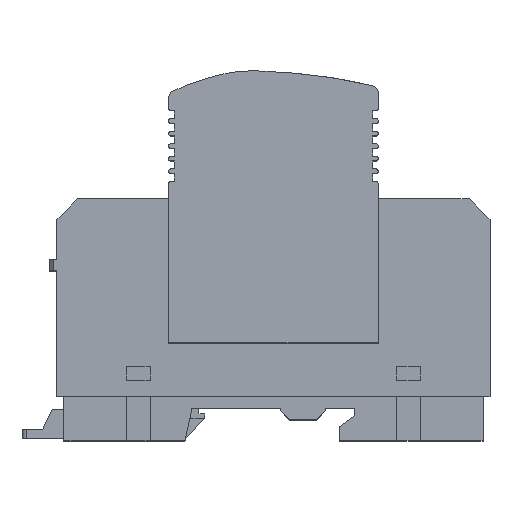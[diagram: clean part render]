
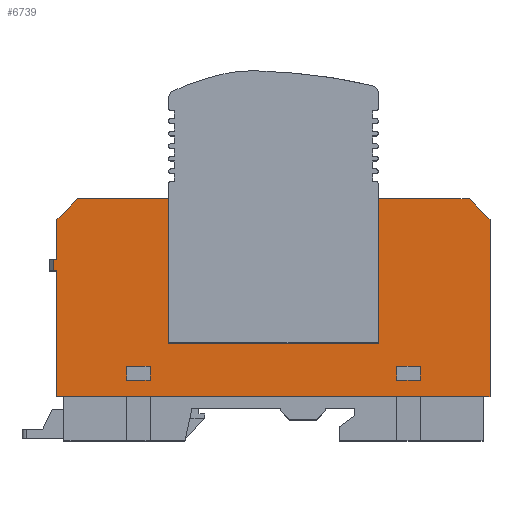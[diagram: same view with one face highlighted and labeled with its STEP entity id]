
A CAD part, top view. The second image highlights one B-rep face of the part: STEP entity #6739.
In plain terms, the highlighted planar face has unit normal (0, 0, 1).
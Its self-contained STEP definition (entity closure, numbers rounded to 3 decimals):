
#139=FACE_BOUND('',#695,.T.);
#140=FACE_BOUND('',#696,.T.);
#322=FACE_OUTER_BOUND('',#694,.T.);
#694=EDGE_LOOP('',(#5042,#5043,#5044,#5045,#5046,#5047,#5048,#5049,#5050,
#5051,#5052,#5053,#5054,#5055));
#695=EDGE_LOOP('',(#5056,#5057,#5058,#5059));
#696=EDGE_LOOP('',(#5060,#5061,#5062,#5063));
#1037=LINE('',#9692,#1833);
#1041=LINE('',#9700,#1837);
#1044=LINE('',#9706,#1840);
#1047=LINE('',#9711,#1843);
#1049=LINE('',#9717,#1845);
#1053=LINE('',#9725,#1849);
#1056=LINE('',#9731,#1852);
#1059=LINE('',#9736,#1855);
#1170=LINE('',#9960,#1966);
#1208=LINE('',#10037,#2004);
#1248=LINE('',#10118,#2044);
#1300=LINE('',#10233,#2096);
#1307=LINE('',#10251,#2103);
#1325=LINE('',#10294,#2121);
#1327=LINE('',#10299,#2123);
#1329=LINE('',#10302,#2125);
#1330=LINE('',#10303,#2126);
#1331=LINE('',#10304,#2127);
#1332=LINE('',#10306,#2128);
#1333=LINE('',#10308,#2129);
#1334=LINE('',#10309,#2130);
#1335=LINE('',#10310,#2131);
#1833=VECTOR('',#7832,10.);
#1837=VECTOR('',#7838,10.);
#1840=VECTOR('',#7843,10.);
#1843=VECTOR('',#7848,10.);
#1845=VECTOR('',#7854,10.);
#1849=VECTOR('',#7860,10.);
#1852=VECTOR('',#7865,10.);
#1855=VECTOR('',#7870,10.);
#1966=VECTOR('',#8053,10.);
#2004=VECTOR('',#8117,10.);
#2044=VECTOR('',#8183,10.);
#2096=VECTOR('',#8307,10.);
#2103=VECTOR('',#8322,10.);
#2121=VECTOR('',#8366,10.);
#2123=VECTOR('',#8370,10.);
#2125=VECTOR('',#8374,10.);
#2126=VECTOR('',#8375,10.);
#2127=VECTOR('',#8376,10.);
#2128=VECTOR('',#8377,10.);
#2129=VECTOR('',#8378,10.);
#2130=VECTOR('',#8379,10.);
#2131=VECTOR('',#8380,10.);
#2734=VERTEX_POINT('',#9690);
#2735=VERTEX_POINT('',#9691);
#2738=VERTEX_POINT('',#9699);
#2740=VERTEX_POINT('',#9705);
#2742=VERTEX_POINT('',#9715);
#2743=VERTEX_POINT('',#9716);
#2746=VERTEX_POINT('',#9724);
#2748=VERTEX_POINT('',#9730);
#2825=VERTEX_POINT('',#9957);
#2826=VERTEX_POINT('',#9959);
#2851=VERTEX_POINT('',#10034);
#2852=VERTEX_POINT('',#10036);
#2879=VERTEX_POINT('',#10115);
#2880=VERTEX_POINT('',#10117);
#2906=VERTEX_POINT('',#10230);
#2907=VERTEX_POINT('',#10232);
#2911=VERTEX_POINT('',#10244);
#2914=VERTEX_POINT('',#10249);
#2926=VERTEX_POINT('',#10292);
#2928=VERTEX_POINT('',#10297);
#2929=VERTEX_POINT('',#10305);
#2930=VERTEX_POINT('',#10307);
#3415=EDGE_CURVE('',#2734,#2735,#1037,.T.);
#3419=EDGE_CURVE('',#2735,#2738,#1041,.T.);
#3422=EDGE_CURVE('',#2738,#2740,#1044,.T.);
#3425=EDGE_CURVE('',#2740,#2734,#1047,.T.);
#3427=EDGE_CURVE('',#2742,#2743,#1049,.T.);
#3431=EDGE_CURVE('',#2743,#2746,#1053,.T.);
#3434=EDGE_CURVE('',#2746,#2748,#1056,.T.);
#3437=EDGE_CURVE('',#2748,#2742,#1059,.T.);
#3548=EDGE_CURVE('',#2826,#2825,#1170,.T.);
#3586=EDGE_CURVE('',#2852,#2851,#1208,.T.);
#3626=EDGE_CURVE('',#2880,#2879,#1248,.T.);
#3681=EDGE_CURVE('',#2907,#2906,#1300,.T.);
#3690=EDGE_CURVE('',#2911,#2914,#1307,.T.);
#3712=EDGE_CURVE('',#2825,#2926,#1325,.T.);
#3714=EDGE_CURVE('',#2928,#2926,#1327,.T.);
#3716=EDGE_CURVE('',#2928,#2852,#1329,.T.);
#3717=EDGE_CURVE('',#2851,#2880,#1330,.T.);
#3718=EDGE_CURVE('',#2879,#2907,#1331,.T.);
#3719=EDGE_CURVE('',#2906,#2929,#1332,.T.);
#3720=EDGE_CURVE('',#2929,#2930,#1333,.T.);
#3721=EDGE_CURVE('',#2930,#2911,#1334,.T.);
#3722=EDGE_CURVE('',#2914,#2826,#1335,.T.);
#5042=ORIENTED_EDGE('',*,*,#3714,.F.);
#5043=ORIENTED_EDGE('',*,*,#3716,.T.);
#5044=ORIENTED_EDGE('',*,*,#3586,.T.);
#5045=ORIENTED_EDGE('',*,*,#3717,.T.);
#5046=ORIENTED_EDGE('',*,*,#3626,.T.);
#5047=ORIENTED_EDGE('',*,*,#3718,.T.);
#5048=ORIENTED_EDGE('',*,*,#3681,.T.);
#5049=ORIENTED_EDGE('',*,*,#3719,.T.);
#5050=ORIENTED_EDGE('',*,*,#3720,.T.);
#5051=ORIENTED_EDGE('',*,*,#3721,.T.);
#5052=ORIENTED_EDGE('',*,*,#3690,.T.);
#5053=ORIENTED_EDGE('',*,*,#3722,.T.);
#5054=ORIENTED_EDGE('',*,*,#3548,.T.);
#5055=ORIENTED_EDGE('',*,*,#3712,.T.);
#5056=ORIENTED_EDGE('',*,*,#3415,.T.);
#5057=ORIENTED_EDGE('',*,*,#3419,.T.);
#5058=ORIENTED_EDGE('',*,*,#3422,.T.);
#5059=ORIENTED_EDGE('',*,*,#3425,.T.);
#5060=ORIENTED_EDGE('',*,*,#3427,.T.);
#5061=ORIENTED_EDGE('',*,*,#3431,.T.);
#5062=ORIENTED_EDGE('',*,*,#3434,.T.);
#5063=ORIENTED_EDGE('',*,*,#3437,.T.);
#6303=PLANE('',#7213);
#6739=ADVANCED_FACE('',(#322,#139,#140),#6303,.T.);
#7213=AXIS2_PLACEMENT_3D('',#10301,#8372,#8373);
#7832=DIRECTION('',(0.,-1.,0.));
#7838=DIRECTION('',(-1.,0.,0.));
#7843=DIRECTION('',(0.,1.,0.));
#7848=DIRECTION('',(1.,0.,0.));
#7854=DIRECTION('',(0.,-1.,0.));
#7860=DIRECTION('',(-1.,0.,0.));
#7865=DIRECTION('',(0.,1.,0.));
#7870=DIRECTION('',(1.,0.,0.));
#8053=DIRECTION('',(0.,-1.,0.));
#8117=DIRECTION('',(0.,-1.,0.));
#8183=DIRECTION('',(0.,1.,0.));
#8307=DIRECTION('',(-1.,0.,0.));
#8322=DIRECTION('',(-1.,0.,0.));
#8366=DIRECTION('',(-1.,0.,0.));
#8370=DIRECTION('',(0.,1.,0.));
#8372=DIRECTION('center_axis',(0.,0.,1.));
#8373=DIRECTION('ref_axis',(1.,0.,0.));
#8374=DIRECTION('',(1.,0.,0.));
#8375=DIRECTION('',(1.,0.,0.));
#8376=DIRECTION('',(-0.707,0.707,0.));
#8377=DIRECTION('',(0.,-1.,0.));
#8378=DIRECTION('',(-1.,0.,0.));
#8379=DIRECTION('',(0.,1.,0.));
#8380=DIRECTION('',(-0.707,-0.707,0.));
#9690=CARTESIAN_POINT('',(-26.5,-23.75,35.));
#9691=CARTESIAN_POINT('',(-26.5,-26.75,35.));
#9692=CARTESIAN_POINT('',(-26.5,-17.235,35.));
#9699=CARTESIAN_POINT('',(-31.5,-26.75,35.));
#9700=CARTESIAN_POINT('',(-15.81,-26.75,35.));
#9705=CARTESIAN_POINT('',(-31.5,-23.75,35.));
#9706=CARTESIAN_POINT('',(-31.5,-15.735,35.));
#9711=CARTESIAN_POINT('',(-13.31,-23.75,35.));
#9715=CARTESIAN_POINT('',(31.5,-23.75,35.));
#9716=CARTESIAN_POINT('',(31.5,-26.75,35.));
#9717=CARTESIAN_POINT('',(31.5,-17.235,35.));
#9724=CARTESIAN_POINT('',(26.5,-26.75,35.));
#9725=CARTESIAN_POINT('',(13.19,-26.75,35.));
#9730=CARTESIAN_POINT('',(26.5,-23.75,35.));
#9731=CARTESIAN_POINT('',(26.5,-15.735,35.));
#9736=CARTESIAN_POINT('',(15.69,-23.75,35.));
#9957=CARTESIAN_POINT('',(-46.5,-0.75,35.));
#9959=CARTESIAN_POINT('',(-46.5,7.75,35.));
#9960=CARTESIAN_POINT('',(-46.5,7.75,35.));
#10034=CARTESIAN_POINT('',(-46.5,-30.25,35.));
#10036=CARTESIAN_POINT('',(-46.5,-3.25,35.));
#10037=CARTESIAN_POINT('',(-46.5,-3.25,35.));
#10115=CARTESIAN_POINT('',(46.5,7.75,35.));
#10117=CARTESIAN_POINT('',(46.5,-30.25,35.));
#10118=CARTESIAN_POINT('',(46.5,-30.25,35.));
#10230=CARTESIAN_POINT('',(22.55,12.25,35.));
#10232=CARTESIAN_POINT('',(42.,12.25,35.));
#10233=CARTESIAN_POINT('',(42.,12.25,35.));
#10244=CARTESIAN_POINT('',(-22.55,12.25,35.));
#10249=CARTESIAN_POINT('',(-42.,12.25,35.));
#10251=CARTESIAN_POINT('',(-22.5,12.25,35.));
#10292=CARTESIAN_POINT('',(-47.2,-0.75,35.));
#10294=CARTESIAN_POINT('',(-46.5,-0.75,35.));
#10297=CARTESIAN_POINT('',(-47.2,-3.25,35.));
#10299=CARTESIAN_POINT('',(-47.2,-4.235,35.));
#10301=CARTESIAN_POINT('Origin',(-0.121,-7.72,35.));
#10302=CARTESIAN_POINT('',(-48.2,-3.25,35.));
#10303=CARTESIAN_POINT('',(-46.5,-30.25,35.));
#10304=CARTESIAN_POINT('',(46.5,7.75,35.));
#10305=CARTESIAN_POINT('',(22.55,-18.75,35.));
#10306=CARTESIAN_POINT('',(22.55,2.265,35.));
#10307=CARTESIAN_POINT('',(-22.55,-18.75,35.));
#10308=CARTESIAN_POINT('',(11.215,-18.75,35.));
#10309=CARTESIAN_POINT('',(-22.55,-13.235,35.));
#10310=CARTESIAN_POINT('',(-42.,12.25,35.));
